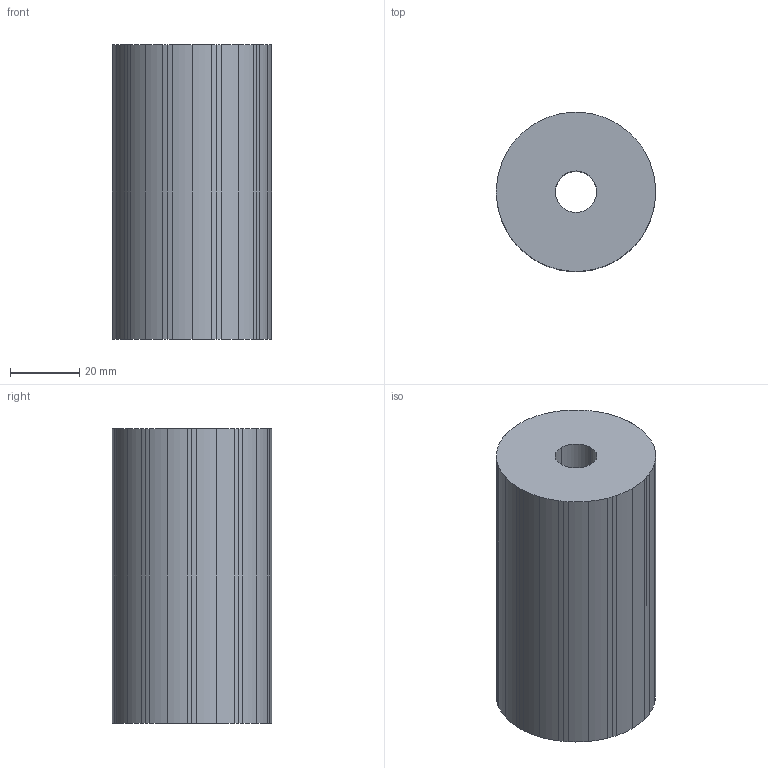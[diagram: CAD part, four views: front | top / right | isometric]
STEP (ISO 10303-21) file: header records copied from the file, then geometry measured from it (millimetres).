
FILE_DESCRIPTION(('FreeCAD Model'),'2;1');
FILE_NAME('Open CASCADE Shape Model','2026-11-05T18:53:51',('FreeCAD'),( 'FreeCAD'),'Open CASCADE STEP processor 7.8','FreeCAD','Unknown');
FILE_SCHEMA(('AUTOMOTIVE_DESIGN { 1 0 10303 214 1 1 1 1 }'));
Length unit declared in the file: millimetre
Products named in the file (1): Open CASCADE STEP translator 7.8 1
Bounding box: 46 x 46 x 85 mm (x, y, z)
Volume: 131648.4 mm3; surface area: 18585.7 mm2
Topology: 1 solids, 1 shells, 48 faces, 138 edges, 92 vertices
Faces by surface type: cylinder 46, plane 2
Entity records: 1648 total; most frequent: DIRECTION 328, CARTESIAN_POINT 279, ORIENTED_EDGE 276, AXIS2_PLACEMENT_3D 141, EDGE_CURVE 138, VERTEX_POINT 92, CIRCLE 92, FACE_BOUND 50
